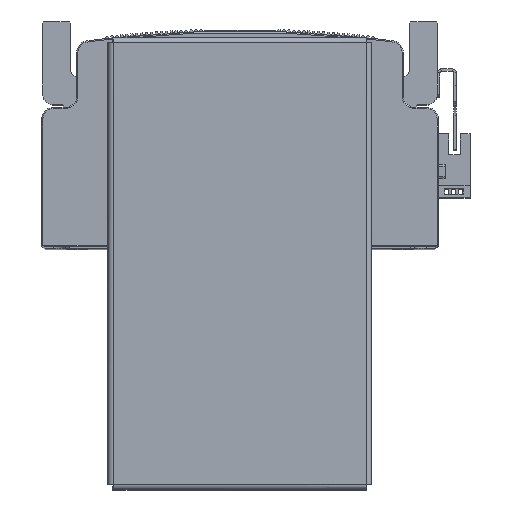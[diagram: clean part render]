
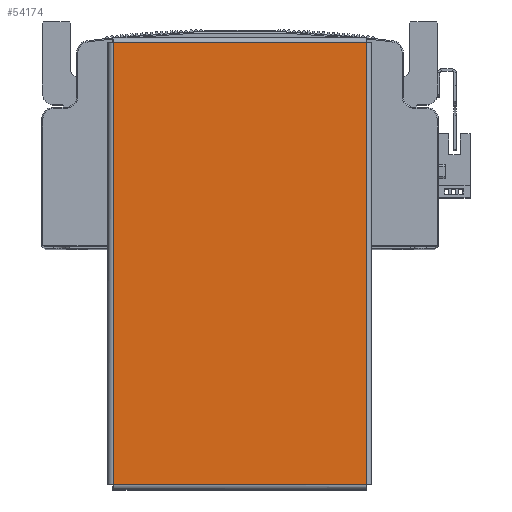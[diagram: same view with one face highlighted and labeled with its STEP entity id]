
A CAD part, top view. The second image highlights one B-rep face of the part: STEP entity #54174.
In plain terms, the highlighted planar face has unit normal (0, 0, 1) as drawn and (0, -1, 0) by its records, which use the part's own axes.
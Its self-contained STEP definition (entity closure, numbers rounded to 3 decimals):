
#1094 = EDGE_LOOP ( 'NONE', ( #34480, #34439, #34539, #34453 ) ) ;
#1740 = VERTEX_POINT ( 'NONE', #22843 ) ;
#1775 = VERTEX_POINT ( 'NONE', #22822 ) ;
#1779 = VERTEX_POINT ( 'NONE', #22880 ) ;
#1803 = VERTEX_POINT ( 'NONE', #22881 ) ;
#3715 = PLANE ( 'NONE',  #6010 ) ;
#3717 = CARTESIAN_POINT ( 'NONE',  ( 0., -1.5, 0. ) ) ;
#3770 = DIRECTION ( 'NONE',  ( 0., 1., 0. ) ) ;
#3787 = DIRECTION ( 'NONE',  ( 0., 0., 1. ) ) ;
#4718 = FACE_OUTER_BOUND ( 'NONE', #1094, .T. ) ;
#6010 = AXIS2_PLACEMENT_3D ( 'NONE', #3717, #3770, #3787 ) ;
#18477 = LINE ( 'NONE', #28813, #18510 ) ;
#18510 = VECTOR ( 'NONE', #28823, 1000. ) ;
#22822 = CARTESIAN_POINT ( 'NONE',  ( -94.763, -1.5, -54.363 ) ) ;
#22843 = CARTESIAN_POINT ( 'NONE',  ( 94.763, -1.5, -54.363 ) ) ;
#22880 = CARTESIAN_POINT ( 'NONE',  ( -94.763, -1.5, 54.363 ) ) ;
#22881 = CARTESIAN_POINT ( 'NONE',  ( 94.763, -1.5, 54.363 ) ) ;
#28813 = CARTESIAN_POINT ( 'NONE',  ( -94.763, -1.5, 54.393 ) ) ;
#28823 = DIRECTION ( 'NONE',  ( 0., 0., -1. ) ) ;
#34439 = ORIENTED_EDGE ( 'NONE', *, *, #58245, .T. ) ;
#34453 = ORIENTED_EDGE ( 'NONE', *, *, #57220, .T. ) ;
#34480 = ORIENTED_EDGE ( 'NONE', *, *, #57214, .T. ) ;
#34539 = ORIENTED_EDGE ( 'NONE', *, *, #57245, .T. ) ;
#34814 = CARTESIAN_POINT ( 'NONE',  ( -94.793, -1.5, -54.363 ) ) ;
#34823 = DIRECTION ( 'NONE',  ( 1., 0., 0. ) ) ;
#37094 = VECTOR ( 'NONE', #41430, 1000. ) ;
#37098 = LINE ( 'NONE', #43010, #37134 ) ;
#37134 = VECTOR ( 'NONE', #41388, 1000. ) ;
#37146 = LINE ( 'NONE', #41367, #37094 ) ;
#37185 = VECTOR ( 'NONE', #34823, 1000. ) ;
#37205 = LINE ( 'NONE', #34814, #37185 ) ;
#41367 = CARTESIAN_POINT ( 'NONE',  ( 94.763, -1.5, -54.393 ) ) ;
#41388 = DIRECTION ( 'NONE',  ( -1., 0., 0. ) ) ;
#41430 = DIRECTION ( 'NONE',  ( 0., 0., 1. ) ) ;
#43010 = CARTESIAN_POINT ( 'NONE',  ( 94.793, -1.5, 54.363 ) ) ;
#54174 = ADVANCED_FACE ( 'NONE', ( #4718 ), #3715, .F. ) ;
#57214 = EDGE_CURVE ( 'NONE', #1803, #1779, #37098, .T. ) ;
#57220 = EDGE_CURVE ( 'NONE', #1740, #1803, #37146, .T. ) ;
#57245 = EDGE_CURVE ( 'NONE', #1775, #1740, #37205, .T. ) ;
#58245 = EDGE_CURVE ( 'NONE', #1779, #1775, #18477, .T. ) ;
